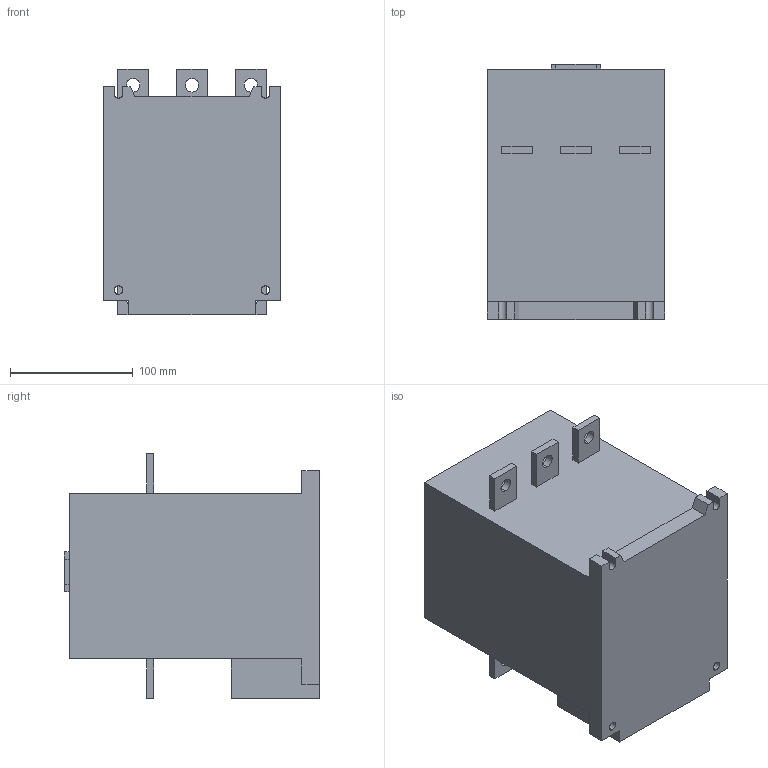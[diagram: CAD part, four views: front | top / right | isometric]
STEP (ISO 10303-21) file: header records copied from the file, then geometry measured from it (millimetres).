
FILE_DESCRIPTION (( 'STEP AP203' ), '1' );
FILE_NAME ('K3-210_260_316.STEP', '2012-07-16T05:16:24', ( 'schulung' ), ( 'Microsoft' ), 'SwSTEP 2.0', 'SolidWorks 2012', '' );
FILE_SCHEMA (( 'CONFIG_CONTROL_DESIGN' ));
Length unit declared in the file: millimetre
Products named in the file (1): K3-210_260_316
Bounding box: 145 x 208 x 200 mm (x, y, z)
Volume: 4302026.5 mm3; surface area: 184420.7 mm2
Topology: 1 solids, 1 shells, 87 faces, 234 edges, 156 vertices
Faces by surface type: plane 69, cylinder 18
Entity records: 2813 total; most frequent: CARTESIAN_POINT 478, ORIENTED_EDGE 468, DIRECTION 446, EDGE_CURVE 234, LINE 198, VECTOR 198, VERTEX_POINT 156, AXIS2_PLACEMENT_3D 124
